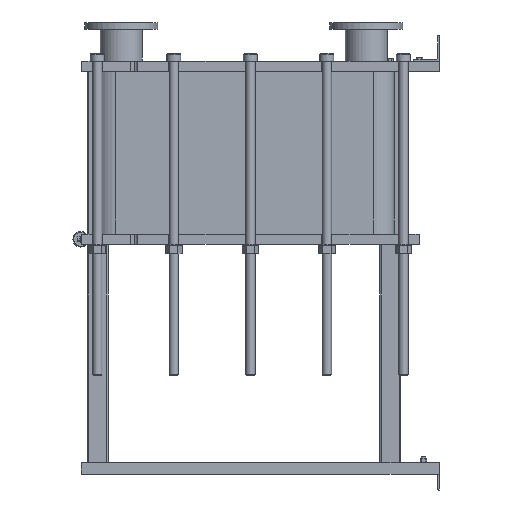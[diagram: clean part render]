
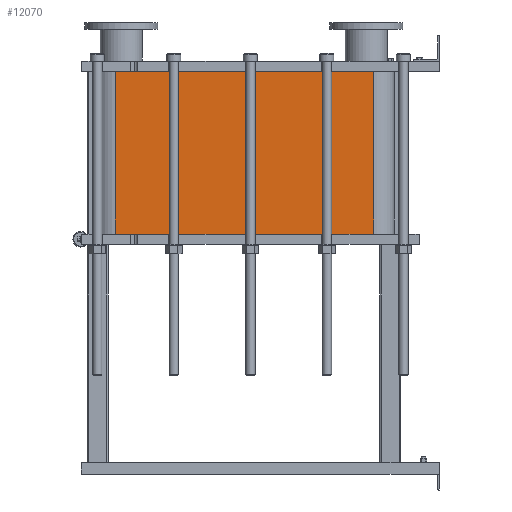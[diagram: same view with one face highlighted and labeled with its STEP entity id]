
A CAD part, left-side view. The second image highlights one B-rep face of the part: STEP entity #12070.
In plain terms, the highlighted planar face has unit normal (-1, 0, 0).
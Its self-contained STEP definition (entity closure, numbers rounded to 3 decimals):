
#1064=LINE('',#21140,#2164);
#1065=LINE('',#21144,#2165);
#1066=LINE('',#21146,#2166);
#1067=LINE('',#21147,#2167);
#2164=VECTOR('',#15790,10.);
#2165=VECTOR('',#15795,10.);
#2166=VECTOR('',#15796,10.);
#2167=VECTOR('',#15797,10.);
#3304=FACE_OUTER_BOUND('',#4091,.T.);
#4091=EDGE_LOOP('',(#9793,#9794,#9795,#9796));
#5677=VERTEX_POINT('',#21137);
#5678=VERTEX_POINT('',#21139);
#5679=VERTEX_POINT('',#21143);
#5680=VERTEX_POINT('',#21145);
#7118=EDGE_CURVE('',#5678,#5677,#1064,.T.);
#7120=EDGE_CURVE('',#5677,#5679,#1065,.T.);
#7121=EDGE_CURVE('',#5680,#5679,#1066,.T.);
#7122=EDGE_CURVE('',#5680,#5678,#1067,.T.);
#9793=ORIENTED_EDGE('',*,*,#7120,.T.);
#9794=ORIENTED_EDGE('',*,*,#7121,.F.);
#9795=ORIENTED_EDGE('',*,*,#7122,.T.);
#9796=ORIENTED_EDGE('',*,*,#7118,.T.);
#11441=PLANE('',#13191);
#12070=ADVANCED_FACE('',(#3304),#11441,.T.);
#13191=AXIS2_PLACEMENT_3D('',#21142,#15793,#15794);
#15790=DIRECTION('',(0.,0.,-1.));
#15793=DIRECTION('center_axis',(-1.,0.,0.));
#15794=DIRECTION('ref_axis',(0.,1.,0.));
#15795=DIRECTION('',(0.,-1.,0.));
#15796=DIRECTION('',(0.,0.,-1.));
#15797=DIRECTION('',(0.,1.,0.));
#21137=CARTESIAN_POINT('',(-248.152,1243.818,-624.45));
#21139=CARTESIAN_POINT('',(-248.152,1243.818,0.));
#21140=CARTESIAN_POINT('',(-248.152,1243.818,0.));
#21142=CARTESIAN_POINT('Origin',(-248.152,251.818,0.));
#21143=CARTESIAN_POINT('',(-248.152,251.818,-624.45));
#21144=CARTESIAN_POINT('',(-248.152,499.818,-624.45));
#21145=CARTESIAN_POINT('',(-248.152,251.818,0.));
#21146=CARTESIAN_POINT('',(-248.152,251.818,0.));
#21147=CARTESIAN_POINT('',(-248.152,251.818,0.));
